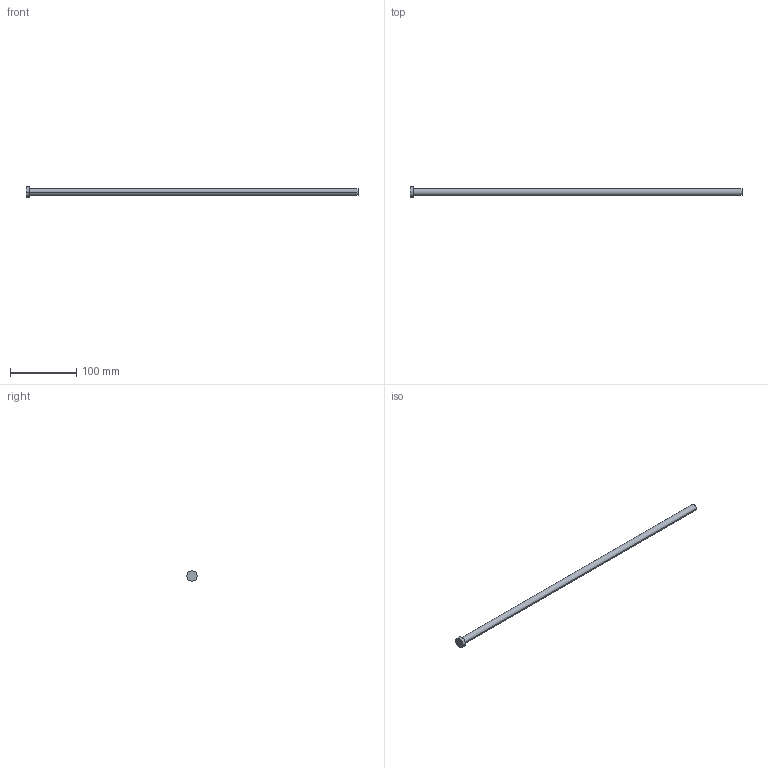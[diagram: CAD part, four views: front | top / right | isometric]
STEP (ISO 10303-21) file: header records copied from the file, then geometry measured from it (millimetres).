
FILE_DESCRIPTION (( 'STEP AP214' ), '1' );
FILE_NAME ('A-10,2x500.STEP', '2020-05-29T15:59:13', ( 'August' ), ( '' ), 'SwSTEP 2.0', 'SolidWorks 2018', '' );
FILE_SCHEMA (( 'AUTOMOTIVE_DESIGN' ));
Length unit declared in the file: millimetre
Products named in the file (1): A-10,2x500
Bounding box: 500 x 16 x 16 mm (x, y, z)
Volume: 41454.9 mm3; surface area: 16508.6 mm2
Topology: 1 solids, 1 shells, 9 faces, 16 edges, 10 vertices
Faces by surface type: cylinder 4, plane 3, torus 2
Entity records: 260 total; most frequent: DIRECTION 48, CARTESIAN_POINT 36, ORIENTED_EDGE 32, AXIS2_PLACEMENT_3D 22, EDGE_CURVE 16, CIRCLE 12, EDGE_LOOP 10, VERTEX_POINT 10
